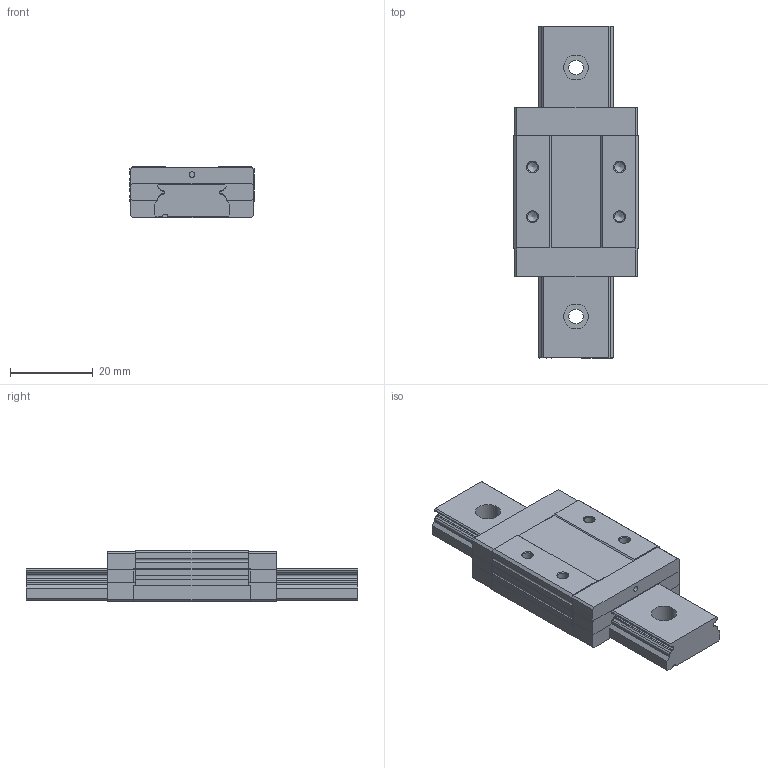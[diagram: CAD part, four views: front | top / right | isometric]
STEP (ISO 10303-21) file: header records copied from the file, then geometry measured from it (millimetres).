
FILE_DESCRIPTION( ( 'Unknown' ), '1' );
FILE_NAME( 'C:/Documents and Settings/Administrator/官帕 拳搁/肯丰 累诀/固聪抿绢 墨促肺弊 累诀 2008斥/3D/SBMW/SBMW-09/SBMW-09.stp', 'Unknown', ( 'Unknown' ), ( 'Unknown' ), 'XStep 1.0', 'Unknown', ' ' );
FILE_SCHEMA( ( 'automotive_design' ) );
Length unit declared in the file: millimetre
Products named in the file (5): Assem1; R; B; E
Bounding box: 30 x 80 x 12.4 mm (x, y, z)
Surface area: 18913.2 mm2
Topology: 8 solids, 8 shells, 306 faces, 838 edges, 554 vertices
Faces by surface type: plane 178, cylinder 112, cone 16
Full cylindrical faces by diameter (mm): 1.4 x4, 2.459 x8, 3.5 x6, 6 x6
Entity records: 5154 total; most frequent: DIRECTION 822, CARTESIAN_POINT 820, ORIENTED_EDGE 780, EDGE_CURVE 390, AXIS2_PLACEMENT_3D 274, LINE 274, VECTOR 274, VERTEX_POINT 272
